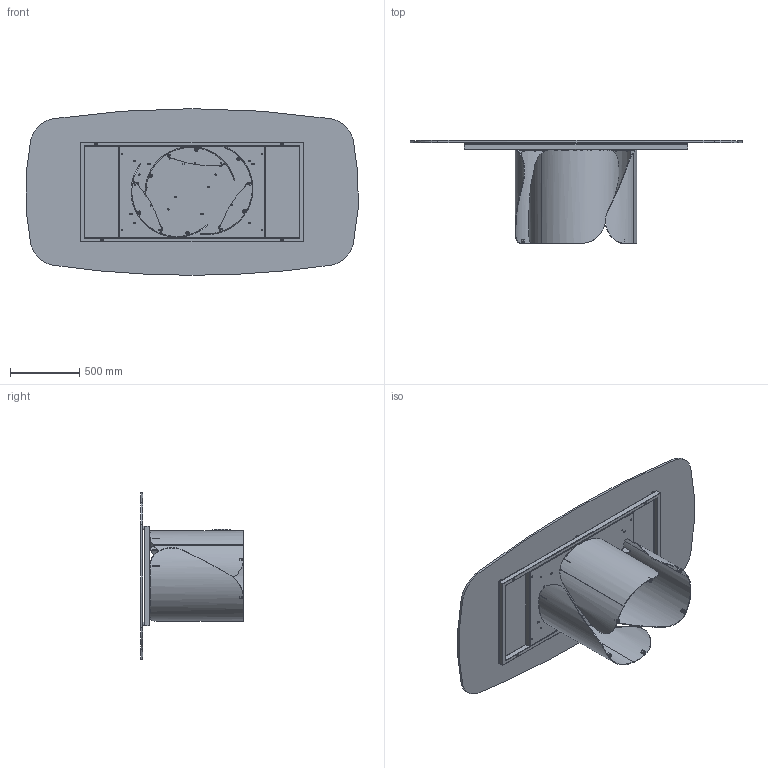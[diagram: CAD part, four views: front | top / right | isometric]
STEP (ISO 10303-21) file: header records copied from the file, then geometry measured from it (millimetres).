
FILE_DESCRIPTION (( 'STEP AP203' ), '1' );
FILE_NAME ('ON43G.STEP', '2024-08-06T13:55:04', ( '' ), ( '' ), 'SwSTEP 2.0', 'SolidWorks 2022', '' );
FILE_SCHEMA (( 'CONFIG_CONTROL_DESIGN' ));
Length unit declared in the file: millimetre
Products named in the file (15): COLLO BASE ONDA SINGOLA CON FERRAMENTA; OND000000-03-ONDA BASE GREZZA; ON43G; 434070-00-PIEDINO TPV GOMMA NERO D. 30x8max18_filo estetico; OND000000_03-00-LAMIERA CURVATA PRINCIPALE_OND00000X-00-ONDA BASE GREZZA PROTOTIPO; COLLO TELAIO UNIVERSALE TTAV0601 CON FERRAMENTA_FERRAMENTA MTG TOP CRISTALLO VERNICIATO-CERAMICA; C4XCRXX-00-Piani Sagomati in Cristallo_2400 x 1200; PIEDINO PER ONDA; TTAV0601_01-00-STRUTTURA X TAVOLI PLAI ONDA NOA 240; OND000000_02-00-CILINDRO DI FISSAGGIO Ø25X17 M8; rondella M8_8X24; M8xXXmm_M8x20mm; TTAV0601-00-TELAIO X TAVOLI PLAI ONDA NOA 240cm_TTAV06; TTAV0601_02-00-VASSOIO TAVOLI PLAI ONDA NOA 240; OND000000_01-00-PIASTRA SUPERIORE BASE ONDA
Assembly tree (45 placements, depth 4):
  ON43G
    COLLO TELAIO UNIVERSALE TTAV0601 CON FERRAMENTA_FERRAMENTA MTG TOP CRISTALLO VERNICIATO-CERAMICA
      TTAV0601-00-TELAIO X TAVOLI PLAI ONDA NOA 240cm_TTAV06
        TTAV0601_02-00-VASSOIO TAVOLI PLAI ONDA NOA 240
        TTAV0601_01-00-STRUTTURA X TAVOLI PLAI ONDA NOA 240
      434070-00-PIEDINO TPV GOMMA NERO D. 30x8max18_filo estetico  x6
    COLLO BASE ONDA SINGOLA CON FERRAMENTA  x3
      OND000000-03-ONDA BASE GREZZA
        OND000000_03-00-LAMIERA CURVATA PRINCIPALE_OND00000X-00-ONDA BASE GREZZA PROTOTIPO
        OND000000_01-00-PIASTRA SUPERIORE BASE ONDA
        OND000000_02-00-CILINDRO DI FISSAGGIO Ø25X17 M8  x2
      PIEDINO PER ONDA
    rondella M8_8X24  x12
    M8xXXmm_M8x20mm  x12
    C4XCRXX-00-Piani Sagomati in Cristallo_2400 x 1200
Bounding box: 2391.62 x 741 x 1200 mm (x, y, z)
Volume: 52730057.3 mm3; surface area: 11698990.3 mm2
Topology: 63 solids, 63 shells, 1552 faces, 3512 edges, 2116 vertices
Faces by surface type: plane 578, cylinder 502, cone 212, torus 192, bspline 60, sphere 8
Entity records: 21376 total; most frequent: CARTESIAN_POINT 4830, DIRECTION 3083, ORIENTED_EDGE 2824, EDGE_CURVE 1412, AXIS2_PLACEMENT_3D 1159, VERTEX_POINT 864, LINE 765, VECTOR 765
